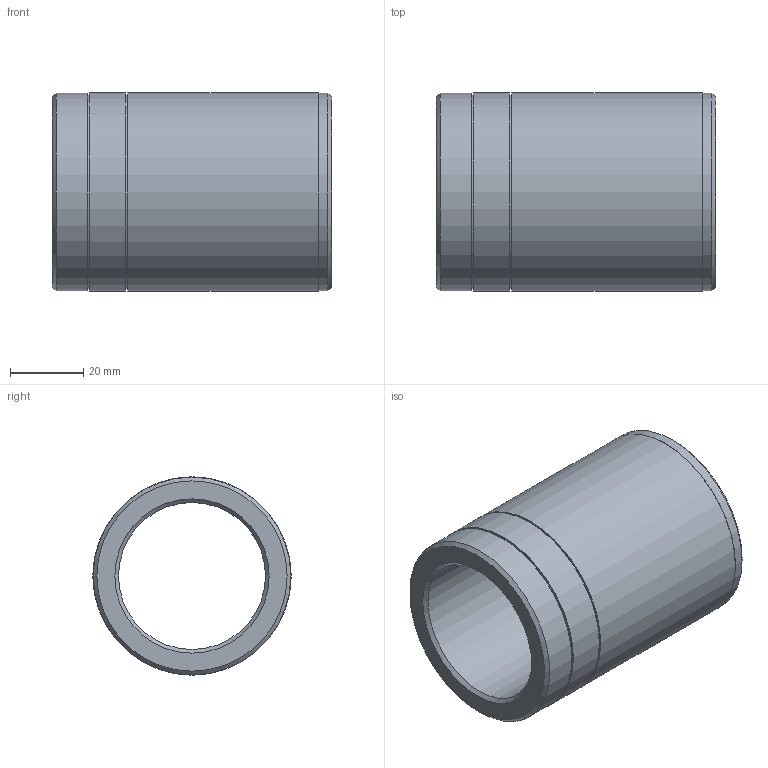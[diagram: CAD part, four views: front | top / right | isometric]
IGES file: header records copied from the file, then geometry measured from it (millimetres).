
Global section: file name: BG06.040066.ipt; native system: Autodesk Inventor 2021; preprocessor: unknown; author: SM; date: 20211221.174218; units: millimetre
Bounding box: 76 x 54 x 54 mm (x, y, z)
Volume: 77951.8 mm3; surface area: 24456.4 mm2
Topology: 1 solids, 1 shells, 18 faces, 31 edges, 20 vertices
Faces by surface type: plane 7, cylinder 6, revolution 3, cone 2
Full cylindrical faces by diameter (mm): 53 x2, 53.8 x2, 54 x2
